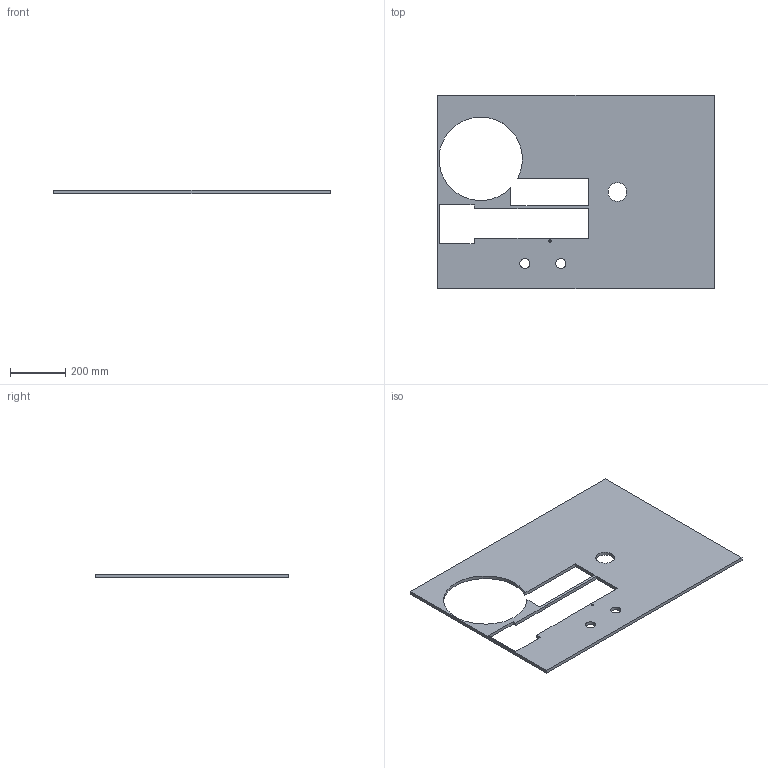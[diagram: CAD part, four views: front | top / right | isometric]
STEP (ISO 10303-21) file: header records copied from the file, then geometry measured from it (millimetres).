
FILE_DESCRIPTION(('Open CASCADE Model'),'2;1');
FILE_NAME('Open CASCADE Shape Model','2026-10-04T01:02:24',('Author'),( 'Open CASCADE'),'Open CASCADE STEP processor 8.0','Open CASCADE 8.0' ,'Unknown');
FILE_SCHEMA(('AUTOMOTIVE_DESIGN { 1 0 10303 214 1 1 1 1 }'));
Length unit declared in the file: millimetre
Products named in the file (1): Open CASCADE STEP translator 8.0 1
Bounding box: 1000 x 700 x 12 mm (x, y, z)
Volume: 6388618.4 mm3; surface area: 1146891.2 mm2
Topology: 1 solids, 1 shells, 28 faces, 78 edges, 52 vertices
Faces by surface type: plane 22, cylinder 6
Full cylindrical faces by diameter (mm): 8.6 x1, 36.6 x2, 68 x1
Entity records: 1870 total; most frequent: CARTESIAN_POINT 387, DIRECTION 232, ORIENTED_EDGE 156, PCURVE 156, DEFINITIONAL_REPRESENTATION 156, LINE 138, VECTOR 138, EDGE_CURVE 78
